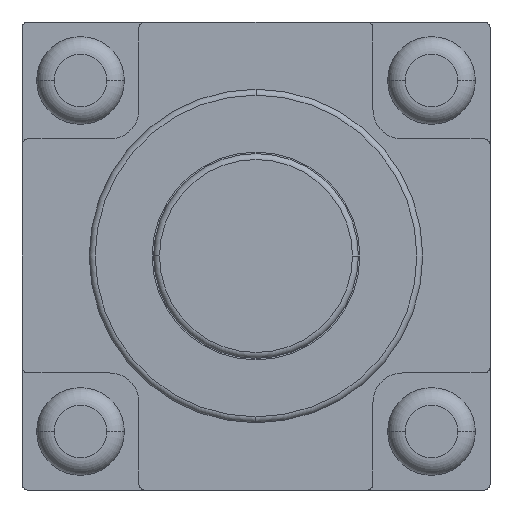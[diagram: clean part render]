
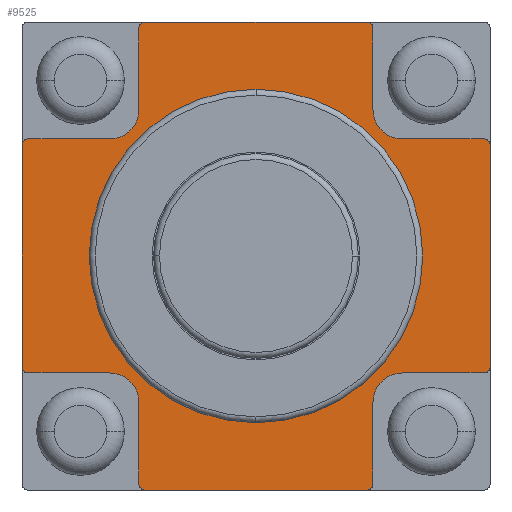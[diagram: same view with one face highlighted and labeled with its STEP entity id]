
A CAD part, front view. The second image highlights one B-rep face of the part: STEP entity #9525.
In plain terms, the highlighted planar face has unit normal (0, -1, 0).
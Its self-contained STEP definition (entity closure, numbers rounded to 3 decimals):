
#8004=CARTESIAN_POINT('',(0.,-2.,0.));
#8005=DIRECTION('',(0.,-1.,0.));
#8006=DIRECTION('',(0.,0.,-1.));
#8007=AXIS2_PLACEMENT_3D('',#8004,#8005,#8006);
#8012=CARTESIAN_POINT('',(0.,-2.,0.));
#8013=DIRECTION('',(0.,-1.,0.));
#8014=DIRECTION('',(0.,0.,1.));
#8015=AXIS2_PLACEMENT_3D('',#8012,#8013,#8014);
#8020=CARTESIAN_POINT('',(-1.9,-2.,3.9));
#8021=DIRECTION('',(0.,-1.,0.));
#8022=DIRECTION('',(0.,0.,1.));
#8023=AXIS2_PLACEMENT_3D('',#8020,#8021,#8022);
#8028=DIRECTION('',(1.,0.,0.));
#8029=VECTOR('',#8028,3.8);
#8030=CARTESIAN_POINT('',(-1.9,-2.,4.));
#8031=LINE('',#8030,#8029);
#8035=CARTESIAN_POINT('',(1.9,-2.,3.9));
#8036=DIRECTION('',(0.,-1.,0.));
#8037=DIRECTION('',(1.,0.,0.));
#8038=AXIS2_PLACEMENT_3D('',#8035,#8036,#8037);
#8043=DIRECTION('',(0.,0.,-1.));
#8044=VECTOR('',#8043,1.4);
#8045=CARTESIAN_POINT('',(2.,-2.,3.9));
#8046=LINE('',#8045,#8044);
#8050=DIRECTION('',(-1.,0.,0.));
#8051=VECTOR('',#8050,1.4);
#8052=CARTESIAN_POINT('',(3.9,-2.,2.));
#8053=LINE('',#8052,#8051);
#8057=CARTESIAN_POINT('',(3.9,-2.,1.9));
#8058=DIRECTION('',(0.,-1.,0.));
#8059=DIRECTION('',(1.,0.,0.));
#8060=AXIS2_PLACEMENT_3D('',#8057,#8058,#8059);
#8065=DIRECTION('',(0.,0.,-1.));
#8066=VECTOR('',#8065,3.8);
#8067=CARTESIAN_POINT('',(4.,-2.,1.9));
#8068=LINE('',#8067,#8066);
#8072=CARTESIAN_POINT('',(3.9,-2.,-1.9));
#8073=DIRECTION('',(0.,-1.,0.));
#8074=DIRECTION('',(0.,0.,-1.));
#8075=AXIS2_PLACEMENT_3D('',#8072,#8073,#8074);
#8080=DIRECTION('',(-1.,0.,0.));
#8081=VECTOR('',#8080,1.4);
#8082=CARTESIAN_POINT('',(3.9,-2.,-2.));
#8083=LINE('',#8082,#8081);
#8087=DIRECTION('',(0.,0.,1.));
#8088=VECTOR('',#8087,1.4);
#8089=CARTESIAN_POINT('',(2.,-2.,-3.9));
#8090=LINE('',#8089,#8088);
#8094=CARTESIAN_POINT('',(1.9,-2.,-3.9));
#8095=DIRECTION('',(0.,-1.,0.));
#8096=DIRECTION('',(0.,0.,-1.));
#8097=AXIS2_PLACEMENT_3D('',#8094,#8095,#8096);
#8102=DIRECTION('',(-1.,0.,0.));
#8103=VECTOR('',#8102,3.8);
#8104=CARTESIAN_POINT('',(1.9,-2.,-4.));
#8105=LINE('',#8104,#8103);
#8109=CARTESIAN_POINT('',(-1.9,-2.,-3.9));
#8110=DIRECTION('',(0.,-1.,0.));
#8111=DIRECTION('',(-1.,0.,0.));
#8112=AXIS2_PLACEMENT_3D('',#8109,#8110,#8111);
#8117=DIRECTION('',(0.,0.,1.));
#8118=VECTOR('',#8117,1.4);
#8119=CARTESIAN_POINT('',(-2.,-2.,-3.9));
#8120=LINE('',#8119,#8118);
#8124=DIRECTION('',(1.,0.,0.));
#8125=VECTOR('',#8124,1.4);
#8126=CARTESIAN_POINT('',(-3.9,-2.,-2.));
#8127=LINE('',#8126,#8125);
#8131=CARTESIAN_POINT('',(-3.9,-2.,-1.9));
#8132=DIRECTION('',(0.,-1.,0.));
#8133=DIRECTION('',(-1.,0.,0.));
#8134=AXIS2_PLACEMENT_3D('',#8131,#8132,#8133);
#8139=DIRECTION('',(0.,0.,1.));
#8140=VECTOR('',#8139,3.8);
#8141=CARTESIAN_POINT('',(-4.,-2.,-1.9));
#8142=LINE('',#8141,#8140);
#8146=CARTESIAN_POINT('',(-3.9,-2.,1.9));
#8147=DIRECTION('',(0.,-1.,0.));
#8148=DIRECTION('',(0.,0.,1.));
#8149=AXIS2_PLACEMENT_3D('',#8146,#8147,#8148);
#8154=DIRECTION('',(1.,0.,0.));
#8155=VECTOR('',#8154,1.4);
#8156=CARTESIAN_POINT('',(-3.9,-2.,2.));
#8157=LINE('',#8156,#8155);
#8161=DIRECTION('',(0.,0.,-1.));
#8162=VECTOR('',#8161,1.4);
#8163=CARTESIAN_POINT('',(-2.,-2.,3.9));
#8164=LINE('',#8163,#8162);
#8190=CARTESIAN_POINT('',(-2.5,-2.,2.5));
#8191=DIRECTION('',(0.,1.,0.));
#8192=DIRECTION('',(1.,0.,0.));
#8193=AXIS2_PLACEMENT_3D('',#8190,#8191,#8192);
#8566=CARTESIAN_POINT('',(-2.5,-2.,-2.5));
#8567=DIRECTION('',(0.,1.,0.));
#8568=DIRECTION('',(0.,0.,1.));
#8569=AXIS2_PLACEMENT_3D('',#8566,#8567,#8568);
#8646=CARTESIAN_POINT('',(2.5,-2.,-2.5));
#8647=DIRECTION('',(0.,1.,0.));
#8648=DIRECTION('',(-1.,0.,0.));
#8649=AXIS2_PLACEMENT_3D('',#8646,#8647,#8648);
#8726=CARTESIAN_POINT('',(2.5,-2.,2.5));
#8727=DIRECTION('',(0.,1.,0.));
#8728=DIRECTION('',(0.,0.,-1.));
#8729=AXIS2_PLACEMENT_3D('',#8726,#8727,#8728);
#9112=CARTESIAN_POINT('',(2.,-2.,-2.5));
#9113=VERTEX_POINT('',#9112);
#9114=CARTESIAN_POINT('',(2.5,-2.,-2.));
#9115=VERTEX_POINT('',#9114);
#9120=CARTESIAN_POINT('',(-2.5,-2.,-2.));
#9121=VERTEX_POINT('',#9120);
#9122=CARTESIAN_POINT('',(-2.,-2.,-2.5));
#9123=VERTEX_POINT('',#9122);
#9128=CARTESIAN_POINT('',(-2.,-2.,2.5));
#9129=VERTEX_POINT('',#9128);
#9130=CARTESIAN_POINT('',(-2.5,-2.,2.));
#9131=VERTEX_POINT('',#9130);
#9136=CARTESIAN_POINT('',(2.5,-2.,2.));
#9137=VERTEX_POINT('',#9136);
#9138=CARTESIAN_POINT('',(2.,-2.,2.5));
#9139=VERTEX_POINT('',#9138);
#9184=CARTESIAN_POINT('',(0.,-2.,-2.85));
#9185=CARTESIAN_POINT('',(0.,-2.,2.85));
#9186=VERTEX_POINT('',#9184);
#9187=VERTEX_POINT('',#9185);
#9196=CARTESIAN_POINT('',(-1.9,-2.,4.));
#9197=CARTESIAN_POINT('',(-2.,-2.,3.9));
#9198=VERTEX_POINT('',#9196);
#9199=VERTEX_POINT('',#9197);
#9204=CARTESIAN_POINT('',(2.,-2.,3.9));
#9206=VERTEX_POINT('',#9204);
#9208=CARTESIAN_POINT('',(1.9,-2.,4.));
#9209=VERTEX_POINT('',#9208);
#9212=CARTESIAN_POINT('',(-3.9,-2.,2.));
#9214=VERTEX_POINT('',#9212);
#9216=CARTESIAN_POINT('',(-4.,-2.,1.9));
#9217=VERTEX_POINT('',#9216);
#9220=CARTESIAN_POINT('',(-4.,-2.,-1.9));
#9221=CARTESIAN_POINT('',(-3.9,-2.,-2.));
#9222=VERTEX_POINT('',#9220);
#9223=VERTEX_POINT('',#9221);
#9228=CARTESIAN_POINT('',(-2.,-2.,-3.9));
#9230=VERTEX_POINT('',#9228);
#9232=CARTESIAN_POINT('',(-1.9,-2.,-4.));
#9233=VERTEX_POINT('',#9232);
#9236=CARTESIAN_POINT('',(4.,-2.,1.9));
#9237=CARTESIAN_POINT('',(3.9,-2.,2.));
#9238=VERTEX_POINT('',#9236);
#9239=VERTEX_POINT('',#9237);
#9244=CARTESIAN_POINT('',(3.9,-2.,-2.));
#9246=VERTEX_POINT('',#9244);
#9248=CARTESIAN_POINT('',(4.,-2.,-1.9));
#9249=VERTEX_POINT('',#9248);
#9252=CARTESIAN_POINT('',(1.9,-2.,-4.));
#9253=CARTESIAN_POINT('',(2.,-2.,-3.9));
#9254=VERTEX_POINT('',#9252);
#9255=VERTEX_POINT('',#9253);
#9466=CARTESIAN_POINT('',(0.,-2.,0.));
#9467=DIRECTION('',(0.,1.,0.));
#9468=DIRECTION('',(-1.,0.,0.));
#9469=AXIS2_PLACEMENT_3D('',#9466,#9467,#9468);
#9470=PLANE('',#9469);
#9472=ORIENTED_EDGE('',*,*,#9471,.F.);
#9474=ORIENTED_EDGE('',*,*,#9473,.T.);
#9476=ORIENTED_EDGE('',*,*,#9475,.F.);
#9478=ORIENTED_EDGE('',*,*,#9477,.T.);
#9480=ORIENTED_EDGE('',*,*,#9479,.F.);
#9482=ORIENTED_EDGE('',*,*,#9481,.F.);
#9484=ORIENTED_EDGE('',*,*,#9483,.F.);
#9486=ORIENTED_EDGE('',*,*,#9485,.T.);
#9488=ORIENTED_EDGE('',*,*,#9487,.F.);
#9490=ORIENTED_EDGE('',*,*,#9489,.T.);
#9492=ORIENTED_EDGE('',*,*,#9491,.F.);
#9494=ORIENTED_EDGE('',*,*,#9493,.F.);
#9496=ORIENTED_EDGE('',*,*,#9495,.F.);
#9498=ORIENTED_EDGE('',*,*,#9497,.T.);
#9500=ORIENTED_EDGE('',*,*,#9499,.F.);
#9502=ORIENTED_EDGE('',*,*,#9501,.T.);
#9504=ORIENTED_EDGE('',*,*,#9503,.F.);
#9506=ORIENTED_EDGE('',*,*,#9505,.F.);
#9508=ORIENTED_EDGE('',*,*,#9507,.F.);
#9510=ORIENTED_EDGE('',*,*,#9509,.T.);
#9512=ORIENTED_EDGE('',*,*,#9511,.F.);
#9514=ORIENTED_EDGE('',*,*,#9513,.T.);
#9516=ORIENTED_EDGE('',*,*,#9515,.F.);
#9518=ORIENTED_EDGE('',*,*,#9517,.F.);
#9519=EDGE_LOOP('',(#9472,#9474,#9476,#9478,#9480,#9482,#9484,#9486,#9488,#9490,
#9492,#9494,#9496,#9498,#9500,#9502,#9504,#9506,#9508,#9510,#9512,#9514,#9516,
#9518));
#9520=FACE_OUTER_BOUND('',#9519,.F.);
#9521=ORIENTED_EDGE('',*,*,#9460,.T.);
#9522=ORIENTED_EDGE('',*,*,#9446,.T.);
#9523=EDGE_LOOP('',(#9521,#9522));
#9524=FACE_BOUND('',#9523,.F.);
#8008=CIRCLE('',#8007,2.85);
#8016=CIRCLE('',#8015,2.85);
#8024=CIRCLE('',#8023,0.1);
#8039=CIRCLE('',#8038,0.1);
#8061=CIRCLE('',#8060,0.1);
#8076=CIRCLE('',#8075,0.1);
#8098=CIRCLE('',#8097,0.1);
#8113=CIRCLE('',#8112,0.1);
#8135=CIRCLE('',#8134,0.1);
#8150=CIRCLE('',#8149,0.1);
#8194=CIRCLE('',#8193,0.5);
#8570=CIRCLE('',#8569,0.5);
#8650=CIRCLE('',#8649,0.5);
#8730=CIRCLE('',#8729,0.5);
#9446=EDGE_CURVE('',#9187,#9186,#8016,.T.);
#9460=EDGE_CURVE('',#9186,#9187,#8008,.T.);
#9471=EDGE_CURVE('',#9198,#9199,#8024,.T.);
#9473=EDGE_CURVE('',#9198,#9209,#8031,.T.);
#9475=EDGE_CURVE('',#9206,#9209,#8039,.T.);
#9477=EDGE_CURVE('',#9206,#9139,#8046,.T.);
#9479=EDGE_CURVE('',#9137,#9139,#8730,.T.);
#9481=EDGE_CURVE('',#9239,#9137,#8053,.T.);
#9483=EDGE_CURVE('',#9238,#9239,#8061,.T.);
#9485=EDGE_CURVE('',#9238,#9249,#8068,.T.);
#9487=EDGE_CURVE('',#9246,#9249,#8076,.T.);
#9489=EDGE_CURVE('',#9246,#9115,#8083,.T.);
#9491=EDGE_CURVE('',#9113,#9115,#8650,.T.);
#9493=EDGE_CURVE('',#9255,#9113,#8090,.T.);
#9495=EDGE_CURVE('',#9254,#9255,#8098,.T.);
#9497=EDGE_CURVE('',#9254,#9233,#8105,.T.);
#9499=EDGE_CURVE('',#9230,#9233,#8113,.T.);
#9501=EDGE_CURVE('',#9230,#9123,#8120,.T.);
#9503=EDGE_CURVE('',#9121,#9123,#8570,.T.);
#9505=EDGE_CURVE('',#9223,#9121,#8127,.T.);
#9507=EDGE_CURVE('',#9222,#9223,#8135,.T.);
#9509=EDGE_CURVE('',#9222,#9217,#8142,.T.);
#9511=EDGE_CURVE('',#9214,#9217,#8150,.T.);
#9513=EDGE_CURVE('',#9214,#9131,#8157,.T.);
#9515=EDGE_CURVE('',#9129,#9131,#8194,.T.);
#9517=EDGE_CURVE('',#9199,#9129,#8164,.T.);
#9525=ADVANCED_FACE('',(#9520,#9524),#9470,.F.);
